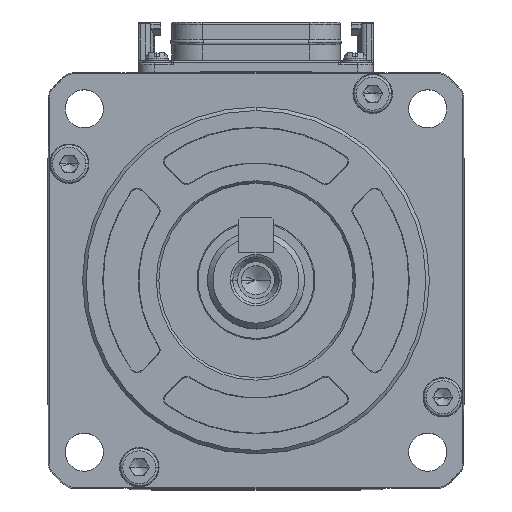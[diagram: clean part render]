
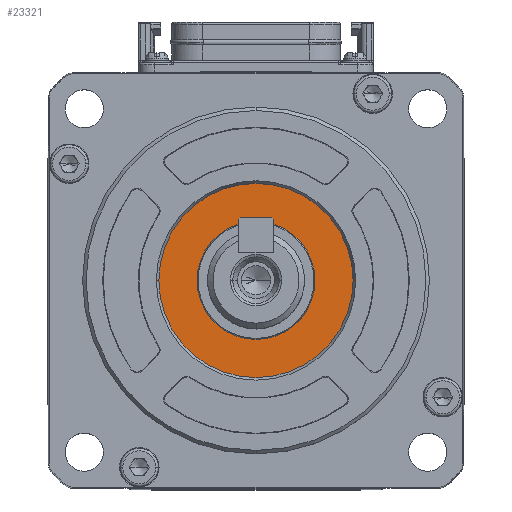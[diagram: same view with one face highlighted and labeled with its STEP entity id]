
A CAD part, top view. The second image highlights one B-rep face of the part: STEP entity #23321.
In plain terms, the highlighted planar face has unit normal (0, 0, 1).
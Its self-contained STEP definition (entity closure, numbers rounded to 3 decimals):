
#961 = VERTEX_POINT ( 'NONE', #22996 ) ;
#1311 = AXIS2_PLACEMENT_3D ( 'NONE', #23643, #84164, #9915 ) ;
#1959 = CIRCLE ( 'NONE', #59631, 8.5 ) ;
#2789 = DIRECTION ( 'NONE',  ( 0., 0., 1. ) ) ;
#8194 = CARTESIAN_POINT ( 'NONE',  ( 0., 0., 44.347 ) ) ;
#9915 = DIRECTION ( 'NONE',  ( 0., 1., 0. ) ) ;
#14893 = CARTESIAN_POINT ( 'NONE',  ( 0., 0., 44.347 ) ) ;
#15215 = DIRECTION ( 'NONE',  ( 0., 0., 1. ) ) ;
#16030 = DIRECTION ( 'NONE',  ( 0., 1., 0. ) ) ;
#17842 = CIRCLE ( 'NONE', #35103, 8.5 ) ;
#20836 = CARTESIAN_POINT ( 'NONE',  ( 8.5, 0., 44.347 ) ) ;
#22996 = CARTESIAN_POINT ( 'NONE',  ( 0., -14., 44.347 ) ) ;
#22997 = DIRECTION ( 'NONE',  ( 0., 0., -1. ) ) ;
#23321 = ADVANCED_FACE ( 'NONE', ( #94733, #73658 ), #54502, .T. ) ;
#23643 = CARTESIAN_POINT ( 'NONE',  ( 0., 0., 44.347 ) ) ;
#23664 = ORIENTED_EDGE ( 'NONE', *, *, #46215, .F. ) ;
#26955 = AXIS2_PLACEMENT_3D ( 'NONE', #30267, #22997, #44318 ) ;
#28228 = CIRCLE ( 'NONE', #26955, 14. ) ;
#29827 = DIRECTION ( 'NONE',  ( 0., 0., 1. ) ) ;
#30267 = CARTESIAN_POINT ( 'NONE',  ( 0., 0., 44.347 ) ) ;
#34284 = VERTEX_POINT ( 'NONE', #20836 ) ;
#35103 = AXIS2_PLACEMENT_3D ( 'NONE', #8194, #29827, #16030 ) ;
#39502 = ORIENTED_EDGE ( 'NONE', *, *, #87723, .F. ) ;
#44318 = DIRECTION ( 'NONE',  ( 0., 1., 0. ) ) ;
#46215 = EDGE_CURVE ( 'NONE', #76875, #34284, #1959, .T. ) ;
#52695 = EDGE_LOOP ( 'NONE', ( #23664, #57402 ) ) ;
#54502 = PLANE ( 'NONE',  #82803 ) ;
#57402 = ORIENTED_EDGE ( 'NONE', *, *, #58524, .F. ) ;
#57411 = EDGE_LOOP ( 'NONE', ( #96653, #39502 ) ) ;
#58524 = EDGE_CURVE ( 'NONE', #34284, #76875, #17842, .T. ) ;
#59631 = AXIS2_PLACEMENT_3D ( 'NONE', #14893, #15215, #75392 ) ;
#60962 = CARTESIAN_POINT ( 'NONE',  ( -8.5, 0., 44.347 ) ) ;
#62234 = CIRCLE ( 'NONE', #1311, 14. ) ;
#69491 = DIRECTION ( 'NONE',  ( 0., 1., 0. ) ) ;
#70691 = CARTESIAN_POINT ( 'NONE',  ( 0., 14., 44.347 ) ) ;
#73658 = FACE_OUTER_BOUND ( 'NONE', #57411, .T. ) ;
#75392 = DIRECTION ( 'NONE',  ( 0., 1., 0. ) ) ;
#76875 = VERTEX_POINT ( 'NONE', #60962 ) ;
#82803 = AXIS2_PLACEMENT_3D ( 'NONE', #91461, #2789, #69491 ) ;
#84164 = DIRECTION ( 'NONE',  ( 0., 0., -1. ) ) ;
#87723 = EDGE_CURVE ( 'NONE', #961, #96455, #28228, .T. ) ;
#87773 = EDGE_CURVE ( 'NONE', #96455, #961, #62234, .T. ) ;
#91461 = CARTESIAN_POINT ( 'NONE',  ( 0., 0., 44.347 ) ) ;
#94733 = FACE_BOUND ( 'NONE', #52695, .T. ) ;
#96455 = VERTEX_POINT ( 'NONE', #70691 ) ;
#96653 = ORIENTED_EDGE ( 'NONE', *, *, #87773, .F. ) ;
